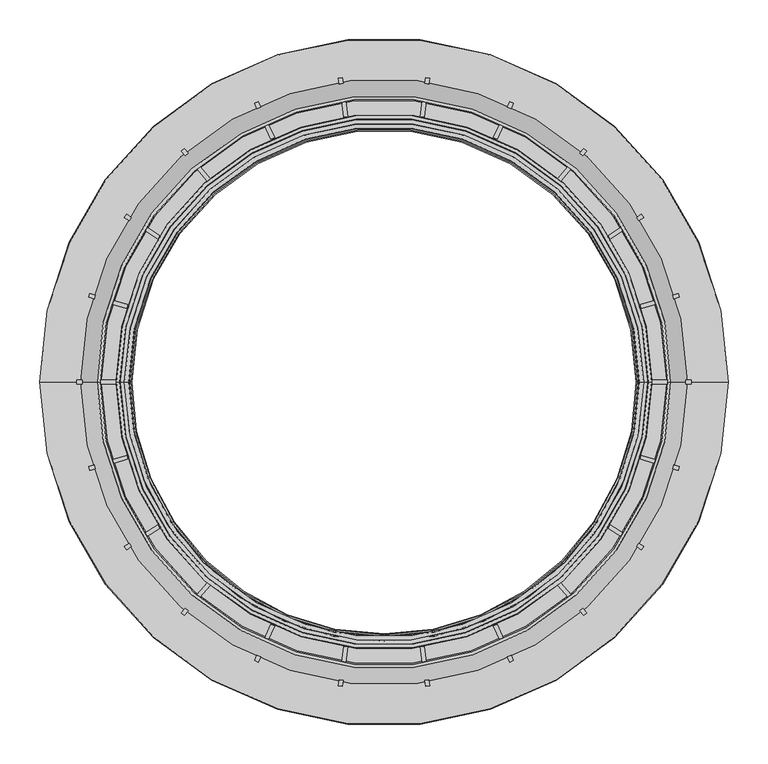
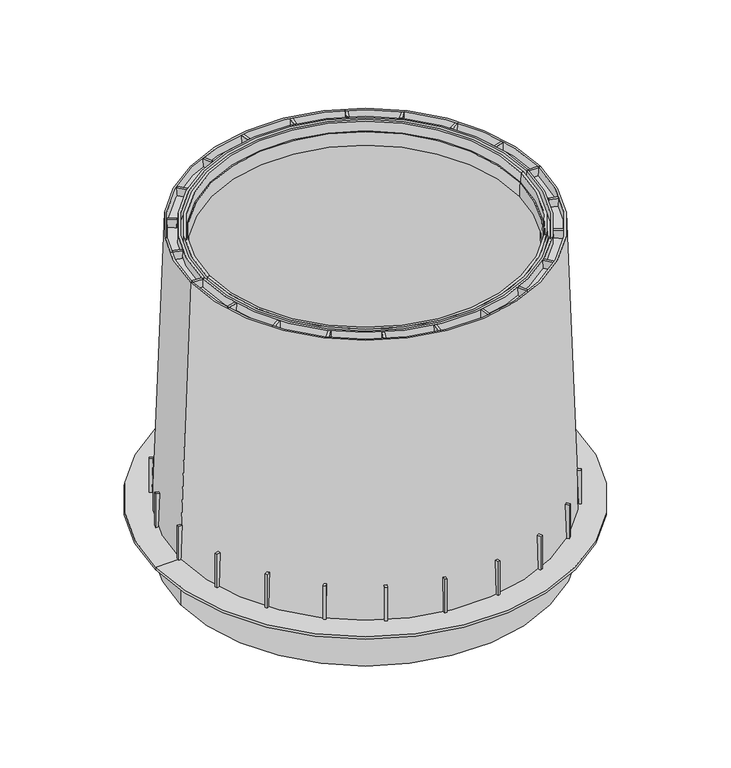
"""IFC4 building model written with IfcOpenShell, lengths in millimetres: proxy geometry, GRAF Tank Dome Maxi : Tank Dome Maxi."""

from ifc_helpers import new_model, si_unit, frame, origin, place, context, project, spatial, polyline, circle_curve, outline, extrude, source, transform, mapped, element, save
from ifc_brep_helpers import plane_surface, revolved_surface, advanced_brep


def specialty_equipment_e8b2a2d0(model_context):
    return source(origin(), model_context, "Body", "SolidModel", [
        advanced_brep(
        [(435.0, 0.0, 11.0), (-435.0, 0.0, 11.0), (-383.7904754, 0.0, 11.0), (383.7904754, 0.0, 11.0), (435.524932, 0.0, 5.0), (-435.524932, 0.0, 5.0), (384.0139606, 0.0, 5.0), (-384.0139606, 0.0, 5.0), (383.0190866, 0.0, -90.0), (-383.0190866, 0.0, -90.0), (378.8253524, 0.0, -90.0), (-378.8253524, 0.0, -90.0), (377.9963, 0.0, 5.0), (-377.9963, 0.0, 5.0), (357.7355977, 0.0, 585.5), (-357.7355977, 0.0, 585.5), (327.3017332, 0.0, 585.5), (-327.3017332, 0.0, 585.5), (325.0707722, 0.0, 560.0), (-325.0707722, 0.0, 560.0), (319.0707722, 0.0, 560.0), (-319.0707722, 0.0, 560.0), (320.0770663, 0.0, 588.8164931), (-320.0770663, 0.0, 588.8164931), (322.0894576, 0.0, 589.171332), (-322.0894576, 0.0, 589.171332), (322.8168107, 0.0, 610.0), (-322.8168107, 0.0, 610.0), (328.1339942, 0.0, 610.0), (-328.1339942, 0.0, 610.0), (328.2867144, 0.0, 592.5), (-328.2867144, 0.0, 592.5), (333.3742766, 0.0, 592.5), (-333.3742766, 0.0, 592.5), (333.98539, 0.0, 610.0), (-333.98539, 0.0, 610.0), (338.4742808, 0.0, 610.0), (-338.4742808, 0.0, 610.0), (339.0853943, 0.0, 592.5), (-339.0853943, 0.0, 592.5), (357.4840479, 0.0, 592.5), (-357.4840479, 0.0, 592.5), (359.0150995, 0.0, 610.0), (-359.0150995, 0.0, 610.0), (362.8729324, 0.0, 610.0), (-362.8729324, 0.0, 610.0)],
        [
            (0, 1, circle_curve(frame((0.0, 0.0, 11.0), z_axis=(0.0, 0.0, 1.0), x_axis=(-1.0, 0.0, 0.0)), 435.0)),
            (1, 2),
            (2, 3, circle_curve(frame((0.0, 0.0, 11.0), z_axis=(0.0, 0.0, -1.0), x_axis=(-1.0, 0.0, 0.0)), 383.7904754)),
            (3, 0),
            (1, 0, circle_curve(frame((0.0, 0.0, 11.0), z_axis=(0.0, 0.0, 1.0), x_axis=(-1.0, 0.0, 0.0)), 435.0)),
            (3, 2, circle_curve(frame((0.0, 0.0, 11.0), z_axis=(0.0, 0.0, -1.0), x_axis=(-1.0, 0.0, 0.0)), 383.7904754)),
            (4, 5, circle_curve(frame((0.0, 0.0, 5.0), z_axis=(0.0, 0.0, 1.0), x_axis=(-1.0, 0.0, 0.0)), 435.524932)),
            (5, 1),
            (0, 4),
            (5, 4, circle_curve(frame((0.0, 0.0, 5.0), z_axis=(0.0, 0.0, 1.0), x_axis=(-1.0, 0.0, 0.0)), 435.524932)),
            (6, 7, circle_curve(frame((0.0, 0.0, 5.0), z_axis=(0.0, 0.0, 1.0), x_axis=(-1.0, 0.0, 0.0)), 384.0139606)),
            (7, 5),
            (4, 6),
            (7, 6, circle_curve(frame((0.0, 0.0, 5.0), z_axis=(0.0, 0.0, 1.0), x_axis=(-1.0, 0.0, 0.0)), 384.0139606)),
            (8, 9, circle_curve(frame((0.0, 0.0, -90.0), z_axis=(0.0, 0.0, 1.0), x_axis=(-1.0, 0.0, 0.0)), 383.0190866)),
            (9, 7),
            (6, 8),
            (9, 8, circle_curve(frame((0.0, 0.0, -90.0), z_axis=(0.0, 0.0, 1.0), x_axis=(-1.0, 0.0, 0.0)), 383.0190866)),
            (10, 11, circle_curve(frame((0.0, 0.0, -90.0), z_axis=(0.0, 0.0, 1.0), x_axis=(-1.0, 0.0, 0.0)), 378.8253524)),
            (11, 9),
            (8, 10),
            (11, 10, circle_curve(frame((0.0, 0.0, -90.0), z_axis=(0.0, 0.0, 1.0), x_axis=(-1.0, 0.0, 0.0)), 378.8253524)),
            (12, 13, circle_curve(frame((0.0, 0.0, 5.0), z_axis=(0.0, 0.0, 1.0), x_axis=(-1.0, 0.0, 0.0)), 377.9963)),
            (13, 11),
            (10, 12),
            (13, 12, circle_curve(frame((0.0, 0.0, 5.0), z_axis=(0.0, 0.0, 1.0), x_axis=(-1.0, 0.0, 0.0)), 377.9963)),
            (14, 15, circle_curve(frame((0.0, 0.0, 585.5), z_axis=(0.0, 0.0, 1.0), x_axis=(-1.0, 0.0, 0.0)), 357.7355977)),
            (15, 13),
            (12, 14),
            (15, 14, circle_curve(frame((0.0, 0.0, 585.5), z_axis=(0.0, 0.0, 1.0), x_axis=(-1.0, 0.0, 0.0)), 357.7355977)),
            (16, 17, circle_curve(frame((0.0, 0.0, 585.5), z_axis=(0.0, 0.0, 1.0), x_axis=(-1.0, 0.0, 0.0)), 327.3017332)),
            (17, 15),
            (14, 16),
            (17, 16, circle_curve(frame((0.0, 0.0, 585.5), z_axis=(0.0, 0.0, 1.0), x_axis=(-1.0, 0.0, 0.0)), 327.3017332)),
            (18, 19, circle_curve(frame((0.0, 0.0, 560.0), z_axis=(0.0, 0.0, 1.0), x_axis=(-1.0, 0.0, 0.0)), 325.0707722)),
            (19, 17),
            (16, 18),
            (19, 18, circle_curve(frame((0.0, 0.0, 560.0), z_axis=(0.0, 0.0, 1.0), x_axis=(-1.0, 0.0, 0.0)), 325.0707722)),
            (20, 21, circle_curve(frame((0.0, 0.0, 560.0), z_axis=(0.0, 0.0, 1.0), x_axis=(-1.0, 0.0, 0.0)), 319.0707722)),
            (21, 19),
            (18, 20),
            (21, 20, circle_curve(frame((0.0, 0.0, 560.0), z_axis=(0.0, 0.0, 1.0), x_axis=(-1.0, 0.0, 0.0)), 319.0707722)),
            (22, 23, circle_curve(frame((0.0, 0.0, 588.8164931), z_axis=(0.0, 0.0, 1.0), x_axis=(-1.0, 0.0, 0.0)), 320.0770663)),
            (23, 21),
            (20, 22),
            (23, 22, circle_curve(frame((0.0, 0.0, 588.8164931), z_axis=(0.0, 0.0, 1.0), x_axis=(-1.0, 0.0, 0.0)), 320.0770663)),
            (24, 25, circle_curve(frame((0.0, 0.0, 589.171332), z_axis=(0.0, 0.0, 1.0), x_axis=(-1.0, 0.0, 0.0)), 322.0894576)),
            (25, 23),
            (22, 24),
            (25, 24, circle_curve(frame((0.0, 0.0, 589.171332), z_axis=(0.0, 0.0, 1.0), x_axis=(-1.0, 0.0, 0.0)), 322.0894576)),
            (26, 27, circle_curve(frame((0.0, 0.0, 610.0), z_axis=(0.0, 0.0, 1.0), x_axis=(-1.0, 0.0, 0.0)), 322.8168107)),
            (27, 25),
            (24, 26),
            (27, 26, circle_curve(frame((0.0, 0.0, 610.0), z_axis=(0.0, 0.0, 1.0), x_axis=(-1.0, 0.0, 0.0)), 322.8168107)),
            (28, 29, circle_curve(frame((0.0, 0.0, 610.0), z_axis=(0.0, 0.0, 1.0), x_axis=(-1.0, 0.0, 0.0)), 328.1339942)),
            (29, 27),
            (26, 28),
            (29, 28, circle_curve(frame((0.0, 0.0, 610.0), z_axis=(0.0, 0.0, 1.0), x_axis=(-1.0, 0.0, 0.0)), 328.1339942)),
            (30, 31, circle_curve(frame((0.0, 0.0, 592.5), z_axis=(0.0, 0.0, 1.0), x_axis=(-1.0, 0.0, 0.0)), 328.2867144)),
            (31, 29),
            (28, 30),
            (31, 30, circle_curve(frame((0.0, 0.0, 592.5), z_axis=(0.0, 0.0, 1.0), x_axis=(-1.0, 0.0, 0.0)), 328.2867144)),
            (32, 33, circle_curve(frame((0.0, 0.0, 592.5), z_axis=(0.0, 0.0, 1.0), x_axis=(-1.0, 0.0, 0.0)), 333.3742766)),
            (33, 31),
            (30, 32),
            (33, 32, circle_curve(frame((0.0, 0.0, 592.5), z_axis=(0.0, 0.0, 1.0), x_axis=(-1.0, 0.0, 0.0)), 333.3742766)),
            (34, 35, circle_curve(frame((0.0, 0.0, 610.0), z_axis=(0.0, 0.0, 1.0), x_axis=(-1.0, 0.0, 0.0)), 333.98539)),
            (35, 33),
            (32, 34),
            (35, 34, circle_curve(frame((0.0, 0.0, 610.0), z_axis=(0.0, 0.0, 1.0), x_axis=(-1.0, 0.0, 0.0)), 333.98539)),
            (36, 37, circle_curve(frame((0.0, 0.0, 610.0), z_axis=(0.0, 0.0, 1.0), x_axis=(-1.0, 0.0, 0.0)), 338.4742808)),
            (37, 35),
            (34, 36),
            (37, 36, circle_curve(frame((0.0, 0.0, 610.0), z_axis=(0.0, 0.0, 1.0), x_axis=(-1.0, 0.0, 0.0)), 338.4742808)),
            (38, 39, circle_curve(frame((0.0, 0.0, 592.5), z_axis=(0.0, 0.0, 1.0), x_axis=(-1.0, 0.0, 0.0)), 339.0853943)),
            (39, 37),
            (36, 38),
            (39, 38, circle_curve(frame((0.0, 0.0, 592.5), z_axis=(0.0, 0.0, 1.0), x_axis=(-1.0, 0.0, 0.0)), 339.0853943)),
            (40, 41, circle_curve(frame((0.0, 0.0, 592.5), z_axis=(0.0, 0.0, 1.0), x_axis=(-1.0, 0.0, 0.0)), 357.4840479)),
            (41, 39),
            (38, 40),
            (41, 40, circle_curve(frame((0.0, 0.0, 592.5), z_axis=(0.0, 0.0, 1.0), x_axis=(-1.0, 0.0, 0.0)), 357.4840479)),
            (42, 43, circle_curve(frame((0.0, 0.0, 610.0), z_axis=(0.0, 0.0, 1.0), x_axis=(-1.0, 0.0, 0.0)), 359.0150995)),
            (43, 41),
            (40, 42),
            (43, 42, circle_curve(frame((0.0, 0.0, 610.0), z_axis=(0.0, 0.0, 1.0), x_axis=(-1.0, 0.0, 0.0)), 359.0150995)),
            (44, 45, circle_curve(frame((0.0, 0.0, 610.0), z_axis=(0.0, 0.0, 1.0), x_axis=(-1.0, 0.0, 0.0)), 362.8729324)),
            (45, 43),
            (42, 44),
            (45, 44, circle_curve(frame((0.0, 0.0, 610.0), z_axis=(0.0, 0.0, 1.0), x_axis=(-1.0, 0.0, 0.0)), 362.8729324)),
            (2, 45),
            (44, 3),
        ],
        [
            plane_surface(frame((0.0, 0.0, 11.0), z_axis=(0.0, 0.0, 1.0), x_axis=(-1.0, 0.0, 0.0))),
            revolved_surface(polyline([(-435.0, 0.0, 11.0), (-435.524932, 0.0, 5.0)]), (0.0, 0.0, 491.5), (0.0, 0.0, -1.0)),
            plane_surface(frame((0.0, 0.0, 5.0), z_axis=(0.0, 0.0, -1.0), x_axis=(-1.0, 0.0, 0.0))),
            revolved_surface(polyline([(-384.0139606, 0.0, 5.0), (-383.0190866, 0.0, -90.0)]), (0.0, 0.0, 491.5), (0.0, 0.0, -1.0)),
            plane_surface(frame((0.0, 0.0, -90.0), z_axis=(0.0, 0.0, -1.0), x_axis=(-1.0, 0.0, 0.0))),
            revolved_surface(polyline([(-378.8253524, 0.0, -90.0), (-377.9963, 0.0, 5.0)]), (0.0, 0.0, 491.5), (0.0, 0.0, -1.0)),
            revolved_surface(polyline([(-377.9963, 0.0, 5.0), (-357.7355977, 0.0, 585.5)]), (0.0, 0.0, 491.5), (0.0, 0.0, -1.0)),
            plane_surface(frame((0.0, 0.0, 585.5), z_axis=(0.0, 0.0, -1.0), x_axis=(-1.0, 0.0, 0.0))),
            revolved_surface(polyline([(-327.3017332, 0.0, 585.5), (-325.0707722, 0.0, 560.0)]), (0.0, 0.0, 491.5), (0.0, 0.0, -1.0)),
            plane_surface(frame((0.0, 0.0, 560.0), z_axis=(0.0, 0.0, -1.0), x_axis=(-1.0, 0.0, 0.0))),
            revolved_surface(polyline([(-319.0707722, 0.0, 560.0), (-320.0770663, 0.0, 588.8164931)]), (0.0, 0.0, 491.5), (0.0, 0.0, -1.0)),
            revolved_surface(polyline([(-320.0770663, 0.0, 588.8164931), (-322.0894576, 0.0, 589.171332)]), (0.0, 0.0, 491.5), (0.0, 0.0, -1.0)),
            revolved_surface(polyline([(-322.0894576, 0.0, 589.171332), (-322.8168107, 0.0, 610.0)]), (0.0, 0.0, 491.5), (0.0, 0.0, -1.0)),
            plane_surface(frame((0.0, 0.0, 610.0), z_axis=(0.0, 0.0, 1.0), x_axis=(-1.0, 0.0, 0.0))),
            revolved_surface(polyline([(-328.1339942, 0.0, 610.0), (-328.2867144, 0.0, 592.5)]), (0.0, 0.0, 491.5), (0.0, 0.0, -1.0)),
            plane_surface(frame((0.0, 0.0, 592.5), z_axis=(0.0, 0.0, 1.0), x_axis=(-1.0, 0.0, 0.0))),
            revolved_surface(polyline([(-333.3742766, 0.0, 592.5), (-333.98539, 0.0, 610.0)]), (0.0, 0.0, 491.5), (0.0, 0.0, -1.0)),
            revolved_surface(polyline([(-338.4742808, 0.0, 610.0), (-339.0853943, 0.0, 592.5)]), (0.0, 0.0, 491.5), (0.0, 0.0, -1.0)),
            revolved_surface(polyline([(-357.4840479, 0.0, 592.5), (-359.0150995, 0.0, 610.0)]), (0.0, 0.0, 491.5), (0.0, 0.0, -1.0)),
            revolved_surface(polyline([(-362.8729324, 0.0, 610.0), (-383.7904754, 0.0, 11.0)]), (0.0, 0.0, 491.5), (0.0, 0.0, -1.0)),
        ],
        [
            (0, [[1, 2, 3, 4]]),
            (0, [[5, -4, 6, -2]]),
            (1, [[7, 8, -1, 9]]),
            (1, [[10, -9, -5, -8]]),
            (2, [[11, 12, -7, 13]]),
            (2, [[14, -13, -10, -12]]),
            (3, [[15, 16, -11, 17]]),
            (3, [[18, -17, -14, -16]]),
            (4, [[19, 20, -15, 21]]),
            (4, [[22, -21, -18, -20]]),
            (5, [[23, 24, -19, 25]]),
            (5, [[26, -25, -22, -24]]),
            (6, [[27, 28, -23, 29]]),
            (6, [[30, -29, -26, -28]]),
            (7, [[31, 32, -27, 33]]),
            (7, [[34, -33, -30, -32]]),
            (8, [[35, 36, -31, 37]]),
            (8, [[38, -37, -34, -36]]),
            (9, [[39, 40, -35, 41]]),
            (9, [[42, -41, -38, -40]]),
            (10, [[43, 44, -39, 45]]),
            (10, [[46, -45, -42, -44]]),
            (11, [[47, 48, -43, 49]]),
            (11, [[50, -49, -46, -48]]),
            (12, [[51, 52, -47, 53]]),
            (12, [[54, -53, -50, -52]]),
            (13, [[55, 56, -51, 57]]),
            (13, [[58, -57, -54, -56]]),
            (14, [[59, 60, -55, 61]]),
            (14, [[62, -61, -58, -60]]),
            (15, [[63, 64, -59, 65]]),
            (15, [[66, -65, -62, -64]]),
            (16, [[67, 68, -63, 69]]),
            (16, [[70, -69, -66, -68]]),
            (13, [[71, 72, -67, 73]]),
            (13, [[74, -73, -70, -72]]),
            (17, [[75, 76, -71, 77]]),
            (17, [[78, -77, -74, -76]]),
            (15, [[79, 80, -75, 81]]),
            (15, [[82, -81, -78, -80]]),
            (18, [[83, 84, -79, 85]]),
            (18, [[86, -85, -82, -84]]),
            (13, [[87, 88, -83, 89]]),
            (13, [[90, -89, -86, -88]]),
            (19, [[-3, 91, -87, 92]]),
            (19, [[-6, -92, -90, -91]]),
        ],
    ),
        extrude(outline(polyline([(-75.5978034, 0.0), (-68.2063382, 0.0), (-70.7904754, -74.0), (-75.5978034, -74.0), (-75.5978034, 0.0)])), frame((47.019098, 309.4583242, 85.0), z_axis=(-0.989821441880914, 0.14231483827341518, 0.0), x_axis=(-0.14231483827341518, -0.989821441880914, 0.0)), (0.0, 0.0, 1.0), 5.0),
        extrude(outline(polyline([(-46.0150996, 525.0), (-25.4742808, 525.0), (-26.0853943, 507.5), (-44.484048, 507.5), (-46.0150996, 525.0)])), frame((47.019098, 309.4583242, 85.0), z_axis=(-0.989821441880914, 0.14231483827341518, 0.0), x_axis=(-0.14231483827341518, -0.989821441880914, 0.0)), (0.0, 0.0, 1.0), 5.0),
        extrude(outline(polyline([(-137.0491355, 0.0), (-63.0491355, 0.0), (-63.0491355, -4.8073281), (-137.0491355, -7.3914653), (-137.0491355, 0.0)])), frame((-57.7777872, 384.286651, -52.0491355), z_axis=(0.9898214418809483, 0.1423148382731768, 0.0), x_axis=(0.0, 0.0, -1.0)), (0.0, 0.0, 1.0), 5.0),
        extrude(outline(polyline([(-662.0491355, -29.5827039), (-644.5491355, -31.1137555), (-644.5491355, -49.5124091), (-662.0491355, -50.1235226), (-662.0491355, -29.5827039)])), frame((-57.7777872, 384.286651, -52.0491355), z_axis=(0.9898214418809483, 0.1423148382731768, 0.0), x_axis=(0.0, 0.0, -1.0)), (0.0, 0.0, 1.0), 5.0),
        extrude(outline(polyline([(85.0, 388.5978034), (85.0, 381.2063382), (11.0, 383.7904754), (11.0, 388.5978034), (85.0, 388.5978034)])), frame((0.0, -2.5, 0.0), z_axis=(0.0, 1.0, 0.0), x_axis=(0.0, 0.0, 1.0)), (0.0, 0.0, 1.0), 5.0),
        extrude(outline(polyline([(610.0, 359.0150995), (610.0, 338.4742808), (592.5, 339.0853943), (592.5, 357.4840479), (610.0, 359.0150995)])), frame((0.0, -2.5, 0.0), z_axis=(0.0, 1.0, 0.0), x_axis=(0.0, 0.0, 1.0)), (0.0, 0.0, 1.0), 5.0),
        extrude(outline(polyline([(-137.0491355, 0.0), (-63.0491355, 0.0), (-63.0491355, -4.807328), (-137.0491355, -7.3914652), (-137.0491355, 0.0)])), frame((-252.5880688, -295.3197764, -52.0491355), z_axis=(-0.7557495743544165, 0.6548607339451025, 0.0), x_axis=(0.0, 0.0, -1.0)), (0.0, 0.0, 1.0), 5.0),
        extrude(outline(polyline([(-662.0491355, -29.5827039), (-644.5491355, -31.1137555), (-644.5491355, -49.5124092), (-662.0491355, -50.1235226), (-662.0491355, -29.5827039)])), frame((-252.5880688, -295.3197764, -52.0491355), z_axis=(-0.7557495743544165, 0.6548607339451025, 0.0), x_axis=(0.0, 0.0, -1.0)), (0.0, 0.0, 1.0), 5.0),
        extrude(outline(polyline([(75.5978034, 0.0), (75.5978034, -74.0), (70.7904755, -74.0), (68.2063382, 0.0), (75.5978034, 0.0)])), frame((-261.9607537, -171.3237097, 85.0), z_axis=(-0.5406408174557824, 0.8412535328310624, 0.0), x_axis=(-0.8412535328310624, -0.5406408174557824, 0.0)), (0.0, 0.0, 1.0), 5.0),
        extrude(outline(polyline([(46.0150996, 525.0), (44.4840479, 507.5), (26.0853943, 507.5), (25.4742809, 525.0), (46.0150996, 525.0)])), frame((-261.9607537, -171.3237097, 85.0), z_axis=(-0.5406408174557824, 0.8412535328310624, 0.0), x_axis=(-0.8412535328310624, -0.5406408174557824, 0.0)), (0.0, 0.0, 1.0), 5.0),
        extrude(outline(polyline([(75.5978035, 0.0), (75.5978035, -74.0), (70.7904755, -74.0), (68.2063383, 0.0), (75.5978035, 0.0)])), frame((-299.6169693, -90.5810227, 85.0), z_axis=(-0.2817325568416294, 0.9594929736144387, 0.0), x_axis=(-0.9594929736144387, -0.2817325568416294, 0.0)), (0.0, 0.0, 1.0), 5.0),
        extrude(outline(polyline([(46.0150996, 525.0), (44.484048, 507.5), (26.0853944, 507.5), (25.4742809, 525.0), (46.0150996, 525.0)])), frame((-299.6169693, -90.5810227, 85.0), z_axis=(-0.2817325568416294, 0.9594929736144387, 0.0), x_axis=(-0.9594929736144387, -0.2817325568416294, 0.0)), (0.0, 0.0, 1.0), 5.0),
        extrude(outline(polyline([(-137.0491355, 0.0), (-63.0491355, 0.0), (-63.0491355, -4.8073281), (-137.0491355, -7.3914653), (-137.0491355, 0.0)])), frame((-159.1552816, -354.5195329, -52.0491355), z_axis=(-0.9096319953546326, 0.41541501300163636, 0.0), x_axis=(0.0, 0.0, -1.0)), (0.0, 0.0, 1.0), 5.0),
        extrude(outline(polyline([(-662.0491355, -29.5827039), (-644.5491355, -31.1137555), (-644.5491355, -49.5124092), (-662.0491355, -50.1235226), (-662.0491355, -29.5827039)])), frame((-159.1552816, -354.5195329, -52.0491355), z_axis=(-0.9096319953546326, 0.41541501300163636, 0.0), x_axis=(0.0, 0.0, -1.0)), (0.0, 0.0, 1.0), 5.0),
        extrude(outline(polyline([(-137.0491355, 0.0), (-63.0491355, 0.0), (-63.0491355, -4.8073281), (-137.0491355, -7.3914652), (-137.0491355, 0.0)])), frame((-52.8286799, -384.9982252, -52.0491355), z_axis=(-0.9898214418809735, 0.1423148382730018, 0.0), x_axis=(0.0, 0.0, -1.0)), (0.0, 0.0, 1.0), 5.0),
        extrude(outline(polyline([(-662.0491355, -29.5827039), (-644.5491355, -31.1137555), (-644.5491355, -49.5124091), (-662.0491355, -50.1235226), (-662.0491355, -29.5827039)])), frame((-52.8286799, -384.9982252, -52.0491355), z_axis=(-0.9898214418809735, 0.1423148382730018, 0.0), x_axis=(0.0, 0.0, -1.0)), (0.0, 0.0, 1.0), 5.0),
        extrude(outline(polyline([(137.0491355, 0.0), (137.0491355, -7.3914653), (63.0491355, -4.8073281), (63.0491355, 0.0), (137.0491355, 0.0)])), frame((373.5611934, 107.0819203, -52.0491355), z_axis=(-0.28173255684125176, 0.9594929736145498, 0.0), x_axis=(0.0, 0.0, 1.0)), (0.0, 0.0, 1.0), 5.0),
        extrude(outline(polyline([(662.0491355, -29.582704), (662.0491355, -50.1235227), (644.5491355, -49.5124092), (644.5491355, -31.1137555), (662.0491355, -29.582704)])), frame((373.5611934, 107.0819203, -52.0491355), z_axis=(-0.28173255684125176, 0.9594929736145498, 0.0), x_axis=(0.0, 0.0, 1.0)), (0.0, 0.0, 1.0), 5.0),
        extrude(outline(polyline([(137.0491355, 0.0), (137.0491355, -7.3914652), (63.0491355, -4.8073281), (63.0491355, 0.0), (137.0491355, 0.0)])), frame((328.260877, 207.9887003, -52.0491355), z_axis=(-0.5406408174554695, 0.8412535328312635, 0.0), x_axis=(0.0, 0.0, 1.0)), (0.0, 0.0, 1.0), 5.0),
        extrude(outline(polyline([(662.0491355, -29.5827038), (662.0491355, -50.1235227), (644.5491355, -49.5124092), (644.5491355, -31.1137555), (662.0491355, -29.5827038)])), frame((328.260877, 207.9887003, -52.0491355), z_axis=(-0.5406408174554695, 0.8412535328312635, 0.0), x_axis=(0.0, 0.0, 1.0)), (0.0, 0.0, 1.0), 5.0),
        extrude(outline(polyline([(-75.5978034, 0.0), (-68.2063382, 0.0), (-70.7904755, -74.0), (-75.5978034, -74.0), (-75.5978034, 0.0)])), frame((203.0820358, -238.1867686, 85.0), z_axis=(0.7557495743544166, 0.6548607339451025, 0.0), x_axis=(-0.6548607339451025, 0.7557495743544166, 0.0)), (0.0, 0.0, 1.0), 5.0),
        extrude(outline(polyline([(-46.0150995, 525.0), (-25.4742808, 525.0), (-26.0853942, 507.5), (-44.484048, 507.5), (-46.0150995, 525.0)])), frame((203.0820358, -238.1867686, 85.0), z_axis=(0.7557495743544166, 0.6548607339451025, 0.0), x_axis=(-0.6548607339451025, 0.7557495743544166, 0.0)), (0.0, 0.0, 1.0), 5.0),
        extrude(outline(polyline([(137.0491355, 0.0), (137.0491355, -7.3914652), (63.0491355, -4.8073279), (63.0491355, 0.0), (137.0491355, 0.0)])), frame((325.5576729, -212.1949679, -52.0491355), z_axis=(0.5406408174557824, 0.8412535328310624, 0.0), x_axis=(0.0, 0.0, 1.0)), (0.0, 0.0, 1.0), 5.0),
        extrude(outline(polyline([(662.0491355, -29.5827038), (662.0491355, -50.1235225), (644.5491355, -49.5124091), (644.5491355, -31.1137555), (662.0491355, -29.5827038)])), frame((325.5576729, -212.1949679, -52.0491355), z_axis=(0.5406408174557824, 0.8412535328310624, 0.0), x_axis=(0.0, 0.0, 1.0)), (0.0, 0.0, 1.0), 5.0),
        extrude(outline(polyline([(137.0491355, 0.0), (137.0491355, -7.3914653), (63.0491355, -4.8073281), (63.0491355, 0.0), (137.0491355, 0.0)])), frame((372.1525306, -111.8793852, -52.0491355), z_axis=(0.2817325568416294, 0.9594929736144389, 0.0), x_axis=(0.0, 0.0, 1.0)), (0.0, 0.0, 1.0), 5.0),
        extrude(outline(polyline([(662.0491355, -29.582704), (662.0491355, -50.1235227), (644.5491355, -49.5124092), (644.5491355, -31.1137555), (662.0491355, -29.582704)])), frame((372.1525306, -111.8793852, -52.0491355), z_axis=(0.2817325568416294, 0.9594929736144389, 0.0), x_axis=(0.0, 0.0, 1.0)), (0.0, 0.0, 1.0), 5.0),
        extrude(outline(polyline([(-75.5978035, 0.0), (-68.2063382, 0.0), (-70.7904754, -74.0), (-75.5978035, -74.0), (-75.5978035, 0.0)])), frame((127.7508191, -285.7533521, 85.0), z_axis=(0.9096319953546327, 0.4154150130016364, 0.0), x_axis=(-0.4154150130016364, 0.9096319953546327, 0.0)), (0.0, 0.0, 1.0), 5.0),
        extrude(outline(polyline([(-46.0150995, 525.0), (-25.4742808, 525.0), (-26.0853942, 507.5), (-44.4840479, 507.5), (-46.0150995, 525.0)])), frame((127.7508191, -285.7533521, 85.0), z_axis=(0.9096319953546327, 0.4154150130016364, 0.0), x_axis=(-0.4154150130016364, 0.9096319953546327, 0.0)), (0.0, 0.0, 1.0), 5.0),
        extrude(outline(polyline([(-75.5978034, 0.0), (-68.2063382, 0.0), (-70.7904754, -74.0), (-75.5978034, -74.0), (-75.5978034, 0.0)])), frame((42.0699908, -310.1698984, 85.0), z_axis=(0.9898214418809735, 0.1423148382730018, 0.0), x_axis=(-0.1423148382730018, 0.9898214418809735, 0.0)), (0.0, 0.0, 1.0), 5.0),
        extrude(outline(polyline([(-46.0150996, 525.0), (-25.4742808, 525.0), (-26.0853943, 507.5), (-44.484048, 507.5), (-46.0150996, 525.0)])), frame((42.0699908, -310.1698984, 85.0), z_axis=(0.9898214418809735, 0.1423148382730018, 0.0), x_axis=(-0.1423148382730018, 0.9898214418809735, 0.0)), (0.0, 0.0, 1.0), 5.0),
        extrude(outline(polyline([(-75.5978035, 0.0), (-68.2063382, 0.0), (-70.7904754, -74.0), (-75.5978035, -74.0), (-75.5978035, 0.0)])), frame((132.2989791, 283.676277, 85.0), z_axis=(-0.9096319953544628, 0.41541501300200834, 0.0), x_axis=(-0.41541501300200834, -0.9096319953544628, 0.0)), (0.0, 0.0, 1.0), 5.0),
        extrude(outline(polyline([(-46.0150995, 525.0), (-25.4742808, 525.0), (-26.0853943, 507.5), (-44.4840479, 507.5), (-46.0150995, 525.0)])), frame((132.2989791, 283.676277, 85.0), z_axis=(-0.9096319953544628, 0.41541501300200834, 0.0), x_axis=(-0.41541501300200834, -0.9096319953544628, 0.0)), (0.0, 0.0, 1.0), 5.0),
        extrude(outline(polyline([(-75.5978034, 0.0), (-68.2063382, 0.0), (-70.7904754, -74.0), (-75.5978034, -74.0), (-75.5978034, 0.0)])), frame((206.8607837, 234.9124649, 85.0), z_axis=(-0.755749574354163, 0.6548607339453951, 0.0), x_axis=(-0.6548607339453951, -0.755749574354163, 0.0)), (0.0, 0.0, 1.0), 5.0),
        extrude(outline(polyline([(-46.0150995, 525.0), (-25.4742808, 525.0), (-26.0853943, 507.5), (-44.4840479, 507.5), (-46.0150995, 525.0)])), frame((206.8607837, 234.9124649, 85.0), z_axis=(-0.755749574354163, 0.6548607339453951, 0.0), x_axis=(-0.6548607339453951, -0.755749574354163, 0.0)), (0.0, 0.0, 1.0), 5.0),
        extrude(outline(polyline([(-137.0491355, 0.0), (-63.0491355, 0.0), (-63.0491355, -4.8073281), (-137.0491355, -7.3914652), (-137.0491355, 0.0)])), frame((-328.260877, 207.9887003, -52.0491355), z_axis=(0.5406408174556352, 0.841253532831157, 0.0), x_axis=(0.0, 0.0, -1.0)), (0.0, 0.0, 1.0), 5.0),
        extrude(outline(polyline([(-662.0491355, -29.5827038), (-644.5491355, -31.1137555), (-644.5491355, -49.5124092), (-662.0491355, -50.1235227), (-662.0491355, -29.5827038)])), frame((-328.260877, 207.9887003, -52.0491355), z_axis=(0.5406408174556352, 0.841253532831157, 0.0), x_axis=(0.0, 0.0, -1.0)), (0.0, 0.0, 1.0), 5.0),
        extrude(outline(polyline([(75.5978034, 0.0), (75.5978034, -74.0), (70.7904754, -74.0), (68.2063382, 0.0), (75.5978034, 0.0)])), frame((-206.8607837, 234.9124649, 85.0), z_axis=(0.7557495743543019, 0.6548607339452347, 0.0), x_axis=(-0.6548607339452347, 0.7557495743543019, 0.0)), (0.0, 0.0, 1.0), 5.0),
        extrude(outline(polyline([(46.0150995, 525.0), (44.4840479, 507.5), (26.0853943, 507.5), (25.4742808, 525.0), (46.0150995, 525.0)])), frame((-206.8607837, 234.9124649, 85.0), z_axis=(0.7557495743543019, 0.6548607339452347, 0.0), x_axis=(-0.6548607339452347, 0.7557495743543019, 0.0)), (0.0, 0.0, 1.0), 5.0),
        extrude(outline(polyline([(75.5978035, 0.0), (75.5978035, -74.0), (70.7904754, -74.0), (68.2063382, 0.0), (75.5978035, 0.0)])), frame((-132.2989791, 283.676277, 85.0), z_axis=(0.9096319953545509, 0.41541501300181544, 0.0), x_axis=(-0.41541501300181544, 0.9096319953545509, 0.0)), (0.0, 0.0, 1.0), 5.0),
        extrude(outline(polyline([(46.0150995, 525.0), (44.4840479, 507.5), (26.0853943, 507.5), (25.4742808, 525.0), (46.0150995, 525.0)])), frame((-132.2989791, 283.676277, 85.0), z_axis=(0.9096319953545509, 0.41541501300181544, 0.0), x_axis=(-0.41541501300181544, 0.9096319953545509, 0.0)), (0.0, 0.0, 1.0), 5.0),
        extrude(outline(polyline([(75.5978035, 0.0), (75.5978035, -74.0), (70.7904754, -74.0), (68.2063383, 0.0), (75.5978035, 0.0)])), frame((-264.6639578, 167.117442, 85.0), z_axis=(0.5406408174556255, 0.8412535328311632, 0.0), x_axis=(-0.8412535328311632, 0.5406408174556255, 0.0)), (0.0, 0.0, 1.0), 5.0),
        extrude(outline(polyline([(46.0150996, 525.0), (44.484048, 507.5), (26.0853943, 507.5), (25.4742808, 525.0), (46.0150996, 525.0)])), frame((-264.6639578, 167.117442, 85.0), z_axis=(0.5406408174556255, 0.8412535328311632, 0.0), x_axis=(-0.8412535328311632, 0.5406408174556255, 0.0)), (0.0, 0.0, 1.0), 5.0),
        extrude(outline(polyline([(-137.0491355, 0.0), (-63.0491355, 0.0), (-63.0491355, -4.8073281), (-137.0491355, -7.3914653), (-137.0491355, 0.0)])), frame((-373.5611934, 107.0819203, -52.0491355), z_axis=(0.28173255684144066, 0.9594929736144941, 0.0), x_axis=(0.0, 0.0, -1.0)), (0.0, 0.0, 1.0), 5.0),
        extrude(outline(polyline([(-662.0491355, -29.582704), (-644.5491355, -31.1137555), (-644.5491355, -49.5124092), (-662.0491355, -50.1235227), (-662.0491355, -29.582704)])), frame((-373.5611934, 107.0819203, -52.0491355), z_axis=(0.28173255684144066, 0.9594929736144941, 0.0), x_axis=(0.0, 0.0, -1.0)), (0.0, 0.0, 1.0), 5.0),
        extrude(outline(polyline([(85.0, -388.5978034), (11.0, -388.5978034), (11.0, -383.7904754), (85.0, -381.2063382), (85.0, -388.5978034)])), frame((0.0, -2.5, 0.0), z_axis=(0.0, 1.0, 0.0), x_axis=(0.0, 0.0, 1.0)), (0.0, 0.0, 1.0), 5.0),
        extrude(outline(polyline([(610.0, -359.0150995), (592.5, -357.4840479), (592.5, -339.0853943), (610.0, -338.4742808), (610.0, -359.0150995)])), frame((0.0, -2.5, 0.0), z_axis=(0.0, 1.0, 0.0), x_axis=(0.0, 0.0, 1.0)), (0.0, 0.0, 1.0), 5.0),
    ])


if __name__ == "__main__":
    model = new_model("IFC4")
    model_context = context("Model", 3, world=origin())
    ifc_project = project(units=[si_unit("LENGTHUNIT", "METRE", prefix="MILLI")], contexts=[model_context])
    site = spatial("IfcSite", under=ifc_project)
    building = spatial("IfcBuilding", under=site)
    placement = place(None, origin())
    specialty_equipment_shape = specialty_equipment_e8b2a2d0(model_context)
    element("IfcBuildingElementProxy", 1, Name="GRAF Tank Dome Maxi : Tank Dome Maxi", ObjectType="GRAF Tank Dome Maxi : Tank Dome Maxi", at=placement, inside=building, context=model_context, shape_type="MappedRepresentation", body=[
        mapped(specialty_equipment_shape, transform((0.0, 0.0, 0.0), x_axis=(1.0, 0.0, 0.0), y_axis=(0.0, 1.0, 0.0), z_axis=(0.0, 0.0, 1.0))),
    ])
    save(model, "model.ifc")
